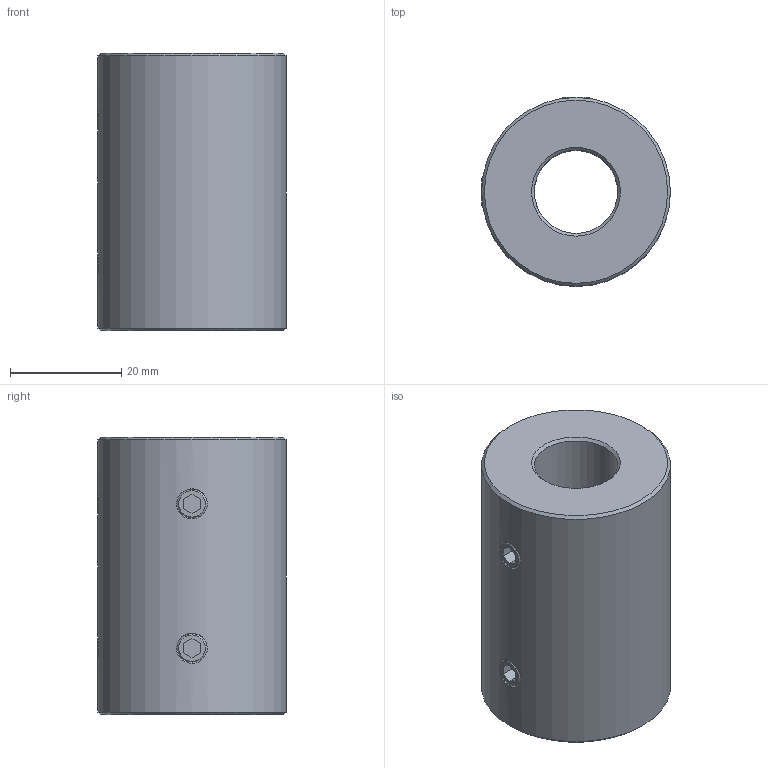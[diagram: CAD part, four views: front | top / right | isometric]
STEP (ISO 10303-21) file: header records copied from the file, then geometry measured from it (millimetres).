
FILE_DESCRIPTION (( 'STEP AP214' ), '1' );
FILE_NAME ('KBST1-VA-15.STEP', '2025-07-29T07:04:38', ( '' ), ( '' ), 'SwSTEP 2.0', 'SolidWorks 2024', '' );
FILE_SCHEMA (( 'AUTOMOTIVE_DESIGN' ));
Length unit declared in the file: millimetre
Products named in the file (1): KBST1-VA-15
Bounding box: 34 x 34 x 50 mm (x, y, z)
Volume: 36203.5 mm3; surface area: 10379.5 mm2
Topology: 5 solids, 5 shells, 80 faces, 178 edges, 104 vertices
Faces by surface type: plane 34, cone 28, cylinder 14, bspline 4
Full cylindrical faces by diameter (mm): 5 x4, 15 x1, 34 x1
Entity records: 7643 total; most frequent: CARTESIAN_POINT 5021, DIRECTION 338, ORIENTED_EDGE 312, EDGE_CURVE 156, AXIS2_PLACEMENT_3D 117, EDGE_LOOP 108, LINE 104, VERTEX_POINT 104
